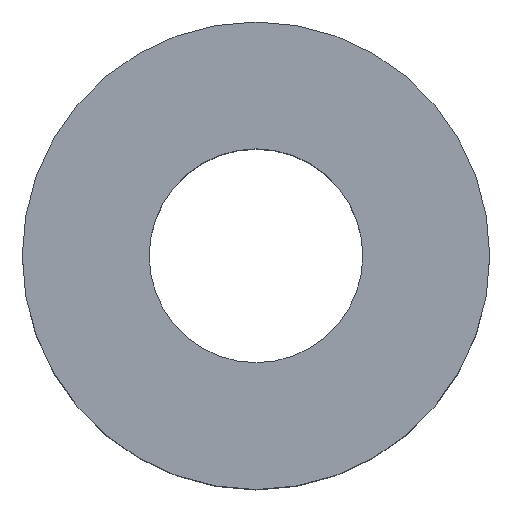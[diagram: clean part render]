
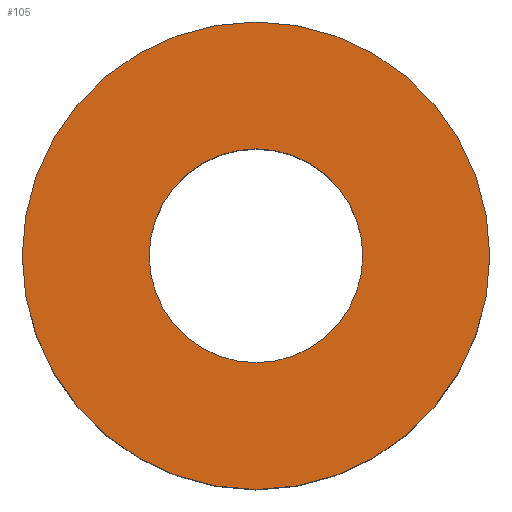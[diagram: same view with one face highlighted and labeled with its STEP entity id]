
A CAD part, top view. The second image highlights one B-rep face of the part: STEP entity #105.
In plain terms, the highlighted planar face has unit normal (0, 0, 1).
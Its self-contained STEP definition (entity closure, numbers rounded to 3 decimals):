
#21 = EDGE_CURVE('',#22,#22,#24,.T.);
#22 = VERTEX_POINT('',#23);
#23 = CARTESIAN_POINT('',(7.,3.5,4.));
#24 = SURFACE_CURVE('',#25,(#30,#42),.PCURVE_S1.);
#25 = CIRCLE('',#26,3.5);
#26 = AXIS2_PLACEMENT_3D('',#27,#28,#29);
#27 = CARTESIAN_POINT('',(3.5,3.5,4.));
#28 = DIRECTION('',(0.,0.,1.));
#29 = DIRECTION('',(1.,0.,-0.));
#30 = PCURVE('',#31,#36);
#31 = CYLINDRICAL_SURFACE('',#32,3.5);
#32 = AXIS2_PLACEMENT_3D('',#33,#34,#35);
#33 = CARTESIAN_POINT('',(3.5,3.5,0.));
#34 = DIRECTION('',(0.,0.,1.));
#35 = DIRECTION('',(1.,0.,-0.));
#36 = DEFINITIONAL_REPRESENTATION('',(#37),#41);
#37 = LINE('',#38,#39);
#38 = CARTESIAN_POINT('',(0.,4.));
#39 = VECTOR('',#40,1.);
#40 = DIRECTION('',(1.,0.));
#41 = ( GEOMETRIC_REPRESENTATION_CONTEXT(2) 
PARAMETRIC_REPRESENTATION_CONTEXT() REPRESENTATION_CONTEXT('2D SPACE',''
  ) );
#42 = PCURVE('',#43,#48);
#43 = PLANE('',#44);
#44 = AXIS2_PLACEMENT_3D('',#45,#46,#47);
#45 = CARTESIAN_POINT('',(3.5,3.5,4.));
#46 = DIRECTION('',(0.,0.,1.));
#47 = DIRECTION('',(1.,0.,-0.));
#48 = DEFINITIONAL_REPRESENTATION('',(#49),#53);
#49 = CIRCLE('',#50,3.5);
#50 = AXIS2_PLACEMENT_2D('',#51,#52);
#51 = CARTESIAN_POINT('',(0.,0.));
#52 = DIRECTION('',(1.,0.));
#53 = ( GEOMETRIC_REPRESENTATION_CONTEXT(2) 
PARAMETRIC_REPRESENTATION_CONTEXT() REPRESENTATION_CONTEXT('2D SPACE',''
  ) );
#105 = ADVANCED_FACE('',(#106,#109),#43,.T.);
#106 = FACE_BOUND('',#107,.T.);
#107 = EDGE_LOOP('',(#108));
#108 = ORIENTED_EDGE('',*,*,#21,.T.);
#109 = FACE_BOUND('',#110,.T.);
#110 = EDGE_LOOP('',(#111));
#111 = ORIENTED_EDGE('',*,*,#112,.F.);
#112 = EDGE_CURVE('',#113,#113,#115,.T.);
#113 = VERTEX_POINT('',#114);
#114 = CARTESIAN_POINT('',(5.1,3.5,4.));
#115 = SURFACE_CURVE('',#116,(#121,#128),.PCURVE_S1.);
#116 = CIRCLE('',#117,1.6);
#117 = AXIS2_PLACEMENT_3D('',#118,#119,#120);
#118 = CARTESIAN_POINT('',(3.5,3.5,4.));
#119 = DIRECTION('',(0.,0.,1.));
#120 = DIRECTION('',(1.,0.,-0.));
#121 = PCURVE('',#43,#122);
#122 = DEFINITIONAL_REPRESENTATION('',(#123),#127);
#123 = CIRCLE('',#124,1.6);
#124 = AXIS2_PLACEMENT_2D('',#125,#126);
#125 = CARTESIAN_POINT('',(0.,0.));
#126 = DIRECTION('',(1.,0.));
#127 = ( GEOMETRIC_REPRESENTATION_CONTEXT(2) 
PARAMETRIC_REPRESENTATION_CONTEXT() REPRESENTATION_CONTEXT('2D SPACE',''
  ) );
#128 = PCURVE('',#129,#134);
#129 = CYLINDRICAL_SURFACE('',#130,1.6);
#130 = AXIS2_PLACEMENT_3D('',#131,#132,#133);
#131 = CARTESIAN_POINT('',(3.5,3.5,-1.));
#132 = DIRECTION('',(0.,0.,1.));
#133 = DIRECTION('',(1.,0.,-0.));
#134 = DEFINITIONAL_REPRESENTATION('',(#135),#139);
#135 = LINE('',#136,#137);
#136 = CARTESIAN_POINT('',(0.,5.));
#137 = VECTOR('',#138,1.);
#138 = DIRECTION('',(1.,0.));
#139 = ( GEOMETRIC_REPRESENTATION_CONTEXT(2) 
PARAMETRIC_REPRESENTATION_CONTEXT() REPRESENTATION_CONTEXT('2D SPACE',''
  ) );
